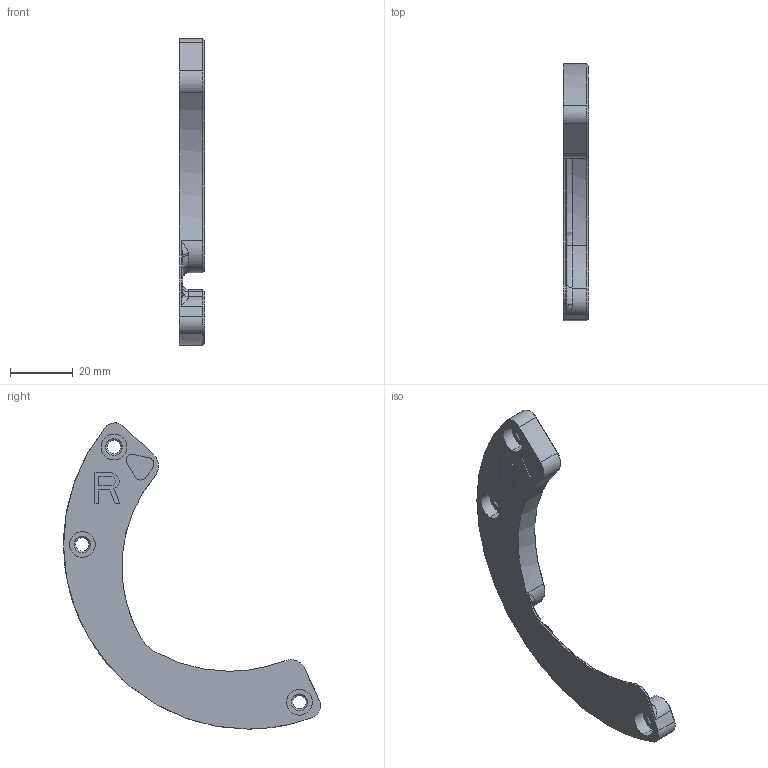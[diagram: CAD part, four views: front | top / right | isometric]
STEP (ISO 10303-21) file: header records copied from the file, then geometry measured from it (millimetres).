
FILE_DESCRIPTION((''),'2;1');
FILE_NAME('KD-D-104L_L_HIP_YOKE_HAR-5149_2','2025-07-14T08:44:25',('Administrator'),(''),'CREO PARAMETRIC BY PTC INC, 2022073','CREO PARAMETRIC BY PTC INC, 2022073','');
FILE_SCHEMA(('CONFIG_CONTROL_DESIGN'));
Length unit declared in the file: millimetre
Products named in the file (1): KD-D-104L_L_HIP_YOKE_HAR-5149_2
Bounding box: 8 x 82.1 x 97.86 mm (x, y, z)
Volume: 14067 mm3; surface area: 7671.3 mm2
Topology: 1 solids, 1 shells, 113 faces, 298 edges, 191 vertices
Faces by surface type: plane 47, cylinder 33, cone 19, torus 11, bspline 3
Entity records: 3635 total; most frequent: CARTESIAN_POINT 715, DIRECTION 630, ORIENTED_EDGE 592, EDGE_CURVE 296, AXIS2_PLACEMENT_3D 234, VERTEX_POINT 191, VECTOR 162, LINE 162
